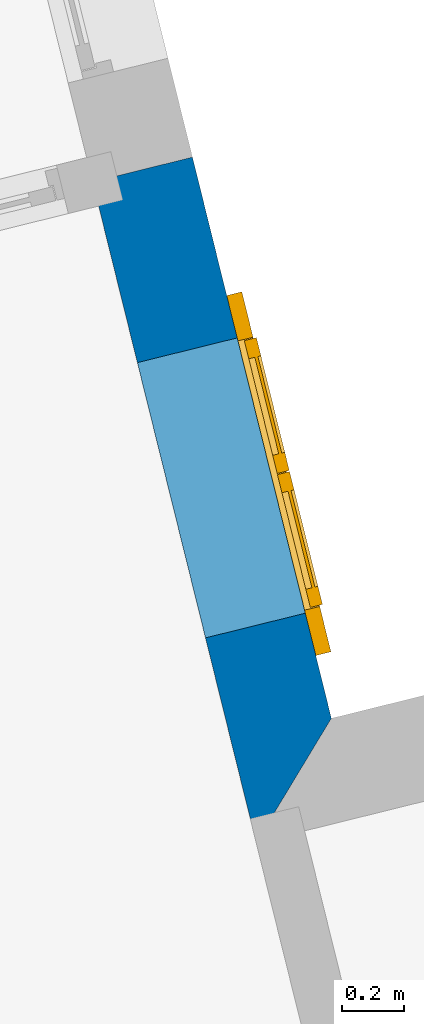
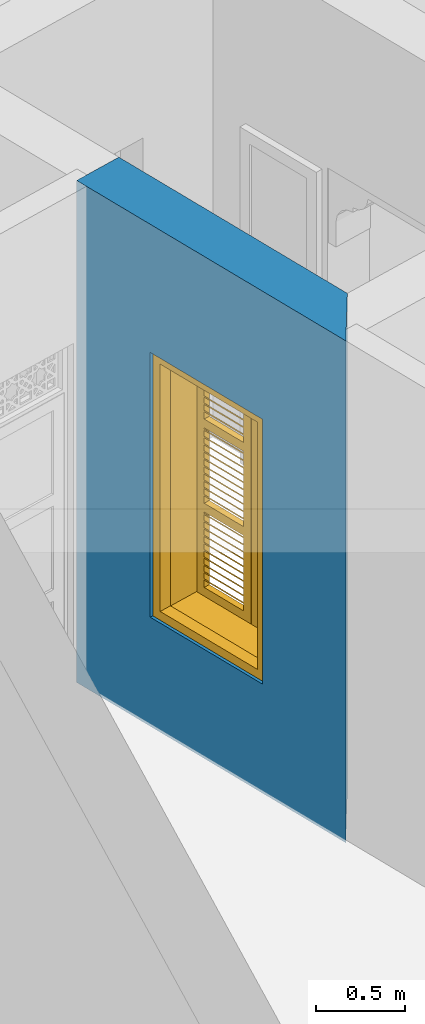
# One storey, part 3 of 10: 1 wall, 1 window, 1 opening.
"""IFC4 building model written with IfcOpenShell, lengths in metres."""

from ifc_helpers import new_model, si_unit, frame, origin, origin_with_axes, place, context, subcontext, project, spatial, polyline, outline, extrude, faceted_brep, source, transform, mapped, material, layer, layer_set, layer_usage, type_object, type_shapes, element, fill, save


model = new_model("IFC4")

# Units and contexts
model_context = context("Model", 3, world=origin_with_axes())
body_context = subcontext(model_context, "Body", "Model", "MODEL_VIEW")
ifc_project = project(units=[si_unit("PLANEANGLEUNIT", "RADIAN"), si_unit("MASSUNIT", "GRAM", prefix="KILO"), si_unit("FORCEUNIT", "NEWTON", prefix="KILO"), si_unit("LENGTHUNIT", "METRE"), si_unit("AREAUNIT", "SQUARE_METRE"), si_unit("VOLUMEUNIT", "CUBIC_METRE")], contexts=[model_context, model_context])

# Site, building, storey
site_placement = place(None, origin_with_axes())
site = spatial("IfcSite", under=ifc_project, at=site_placement, Name="Site plot-5", CompositionType="ELEMENT")
building_placement = place(None, origin_with_axes())
building = spatial("IfcBuilding", under=site, at=building_placement, Name="Building plot-5", CompositionType="ELEMENT")
storey_placement = place(None, origin_with_axes())
storey = spatial("IfcBuildingStorey", under=building, at=storey_placement, Name="plot-5 0", CompositionType="ELEMENT", Elevation=0.0)

# Wall, opening, window
ifc_material = material(Name="Masonry")
ifc_layer = layer(ifc_material, 0.33, ventilated=False)
ifc_layer_set = layer_set([ifc_layer], Name="exterior_0.08_0.25")
ifc_layer_usage = layer_usage(ifc_layer_set, "AXIS2", "POSITIVE", -0.25)
wall_type = type_object("IfcWallType", Name="exterior_0.08_0.25", PredefinedType="SOLIDWALL", material=ifc_layer_set)
wall_placement = place(storey_placement, frame((18.993952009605, 23.9854149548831, 0.0), z_axis=(0.0, 0.0, 1.0), x_axis=(-0.240250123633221, 0.970711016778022, 0.0)))
wall = element("IfcWall", 1, at=wall_placement, inside=storey, type_object=wall_type, material=ifc_layer_usage, Name="exterior", context=body_context, shape_type="SweptSolid", body=[
    extrude(outline(polyline([(-0.0799999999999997, 0.0799999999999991), (0.249999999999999, -0.250000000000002), (2.10517591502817, -0.250000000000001), (2.10517591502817, 0.0800000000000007), (-0.0799999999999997, 0.0799999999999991)])), origin_with_axes(), (0.0, 0.0, 1.0), 3.45),
])
opening_placement = place(wall_placement, frame((0.597587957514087, 0.0, 0.75)))
opening = element("IfcOpeningElement", 2, at=opening_placement, cuts=wall, Name="My Opening", ObjectType="Opening", context=body_context, shape_type="SweptSolid", body=[
    extrude(outline(polyline([(0.0, -0.269999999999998), (0.909999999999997, -0.270000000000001), (0.909999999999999, 1.1), (2.1094237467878e-15, 1.1), (0.0, -0.269999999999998)])), origin_with_axes(), (0.0, 0.0, 1.0), 1.82),
])
window_type = type_object("IfcWindowType", Name="shuttered_big", PartitioningType="DOUBLE_PANEL_HORIZONTAL", PredefinedType="NOTDEFINED")
shared_shape = source(origin(), body_context, "Body", "Brep", [
    faceted_brep([(0.074, 0.0, 0.810667), (0.393, 0.0, 0.810667), (0.393, 0.0, 0.800667), (0.074, 0.0, 0.800667), (0.074, -0.04, 0.770667), (0.393, -0.04, 0.770667), (0.393, -0.04, 0.760667), (0.074, -0.04, 0.760667), (0.517, 0.0, 0.232), (0.836, 0.0, 0.232), (0.836, 0.0, 0.222), (0.517, 0.0, 0.222), (0.517, -0.04, 0.192), (0.836, -0.04, 0.192), (0.836, -0.04, 0.182), (0.517, -0.04, 0.182), (0.517, 0.0, 0.532), (0.836, 0.0, 0.532), (0.836, 0.0, 0.522), (0.517, 0.0, 0.522), (0.517, -0.04, 0.492), (0.836, -0.04, 0.492), (0.836, -0.04, 0.482), (0.517, -0.04, 0.482), (0.517, 0.0, 0.482), (0.836, 0.0, 0.482), (0.836, 0.0, 0.472), (0.517, 0.0, 0.472), (0.517, -0.04, 0.442), (0.836, -0.04, 0.442), (0.836, -0.04, 0.432), (0.517, -0.04, 0.432), (0.517, 0.0, 0.582), (0.836, 0.0, 0.582), (0.836, 0.0, 0.572), (0.517, 0.0, 0.572), (0.517, -0.04, 0.542), (0.836, -0.04, 0.542), (0.836, -0.04, 0.532), (0.517, -0.04, 0.532), (0.517, 0.0, 0.182), (0.836, 0.0, 0.182), (0.836, 0.0, 0.172), (0.517, 0.0, 0.172), (0.517, -0.04, 0.142), (0.836, -0.04, 0.142), (0.836, -0.04, 0.132), (0.517, -0.04, 0.132), (0.517, 0.0, 0.382), (0.836, 0.0, 0.382), (0.836, 0.0, 0.372), (0.517, 0.0, 0.372), (0.517, -0.04, 0.342), (0.836, -0.04, 0.342), (0.836, -0.04, 0.332), (0.517, -0.04, 0.332), (0.517, 0.0, 0.432), (0.836, 0.0, 0.432), (0.836, 0.0, 0.422), (0.517, 0.0, 0.422), (0.517, -0.04, 0.392), (0.836, -0.04, 0.392), (0.836, -0.04, 0.382), (0.517, -0.04, 0.382), (0.517, 0.0, 0.132), (0.836, 0.0, 0.132), (0.836, 0.0, 0.122), (0.517, 0.0, 0.122), (0.517, -0.04, 0.092), (0.836, -0.04, 0.092), (0.836, -0.04, 0.082), (0.517, -0.04, 0.082), (0.517, 0.0, 0.282), (0.836, 0.0, 0.282), (0.836, 0.0, 0.272), (0.517, 0.0, 0.272), (0.517, -0.04, 0.242), (0.836, -0.04, 0.242), (0.836, -0.04, 0.232), (0.517, -0.04, 0.232), (0.517, 0.0, 0.332), (0.836, 0.0, 0.332), (0.836, 0.0, 0.322), (0.517, 0.0, 0.322), (0.517, -0.04, 0.292), (0.836, -0.04, 0.292), (0.836, -0.04, 0.282), (0.517, -0.04, 0.282), (0.517, 0.0, 0.810667), (0.836, 0.0, 0.810667), (0.836, 0.0, 0.800667), (0.517, 0.0, 0.800667), (0.517, -0.04, 0.770667), (0.836, -0.04, 0.770667), (0.836, -0.04, 0.760667), (0.517, -0.04, 0.760667), (0.517, 0.0, 1.110667), (0.836, 0.0, 1.110667), (0.836, 0.0, 1.100667), (0.517, 0.0, 1.100667), (0.517, -0.04, 1.070667), (0.836, -0.04, 1.070667), (0.836, -0.04, 1.060667), (0.517, -0.04, 1.060667), (0.517, 0.0, 1.060667), (0.836, 0.0, 1.060667), (0.836, 0.0, 1.050667), (0.517, 0.0, 1.050667), (0.517, -0.04, 1.020667), (0.836, -0.04, 1.020667), (0.836, -0.04, 1.010667), (0.517, -0.04, 1.010667), (0.517, 0.0, 1.160667), (0.836, 0.0, 1.160667), (0.836, 0.0, 1.150667), (0.517, 0.0, 1.150667), (0.517, -0.04, 1.120667), (0.836, -0.04, 1.120667), (0.836, -0.04, 1.110667), (0.517, -0.04, 1.110667), (0.517, 0.0, 0.760667), (0.836, 0.0, 0.760667), (0.836, 0.0, 0.750667), (0.517, 0.0, 0.750667), (0.517, -0.04, 0.720667), (0.836, -0.04, 0.720667), (0.836, -0.04, 0.710667), (0.517, -0.04, 0.710667), (0.517, 0.0, 0.960667), (0.836, 0.0, 0.960667), (0.836, 0.0, 0.950667), (0.517, 0.0, 0.950667), (0.517, -0.04, 0.920667), (0.836, -0.04, 0.920667), (0.836, -0.04, 0.910667), (0.517, -0.04, 0.910667), (0.517, 0.0, 1.010667), (0.836, 0.0, 1.010667), (0.836, 0.0, 1.0), (0.517, 0.0, 1.0), (0.517, -0.04, 0.970667), (0.836, -0.04, 0.970667), (0.836, -0.04, 0.960667), (0.517, -0.04, 0.960667), (0.517, 0.0, 0.710667), (0.836, 0.0, 0.710667), (0.836, 0.0, 0.700667), (0.517, 0.0, 0.700667), (0.517, -0.04, 0.670667), (0.836, -0.04, 0.670667), (0.836, -0.04, 0.660667), (0.517, -0.04, 0.660667), (0.517, 0.0, 0.860667), (0.836, 0.0, 0.860667), (0.836, 0.0, 0.850667), (0.517, 0.0, 0.850667), (0.517, -0.04, 0.820667), (0.836, -0.04, 0.820667), (0.836, -0.04, 0.810667), (0.517, -0.04, 0.810667), (0.517, 0.0, 0.910667), (0.836, 0.0, 0.910667), (0.836, 0.0, 0.900667), (0.517, 0.0, 0.900667), (0.517, -0.04, 0.870667), (0.836, -0.04, 0.870667), (0.836, -0.04, 0.860667), (0.517, -0.04, 0.860667), (0.517, 0.0, 1.389333), (0.836, 0.0, 1.389333), (0.836, 0.0, 1.379333), (0.517, 0.0, 1.379333), (0.517, -0.04, 1.349333), (0.836, -0.04, 1.349333), (0.836, -0.04, 1.339333), (0.517, -0.04, 1.339333), (0.517, 0.0, 1.689333), (0.836, 0.0, 1.689333), (0.836, 0.0, 1.679333), (0.517, 0.0, 1.679333), (0.517, -0.04, 1.649333), (0.836, -0.04, 1.649333), (0.836, -0.04, 1.639333), (0.517, -0.04, 1.639333), (0.517, 0.0, 1.639333), (0.836, 0.0, 1.639333), (0.836, 0.0, 1.629333), (0.517, 0.0, 1.629333), (0.517, -0.04, 1.599333), (0.836, -0.04, 1.599333), (0.836, -0.04, 1.589333), (0.517, -0.04, 1.589333), (0.517, 0.0, 1.739333), (0.836, 0.0, 1.739333), (0.836, 0.0, 1.729333), (0.517, 0.0, 1.729333), (0.517, -0.04, 1.699333), (0.836, -0.04, 1.699333), (0.836, -0.04, 1.689333), (0.517, -0.04, 1.689333), (0.517, 0.0, 1.339333), (0.836, 0.0, 1.339333), (0.836, 0.0, 1.329333), (0.517, 0.0, 1.329333), (0.517, -0.04, 1.299333), (0.836, -0.04, 1.299333), (0.836, -0.04, 1.289333), (0.517, -0.04, 1.289333), (0.517, 0.0, 1.539333), (0.836, 0.0, 1.539333), (0.836, 0.0, 1.529333), (0.517, 0.0, 1.529333), (0.517, -0.04, 1.499333), (0.836, -0.04, 1.499333), (0.836, -0.04, 1.489333), (0.517, -0.04, 1.489333), (0.517, 0.0, 1.589333), (0.836, 0.0, 1.589333), (0.836, 0.0, 1.579333), (0.517, 0.0, 1.579333), (0.517, -0.04, 1.549333), (0.836, -0.04, 1.549333), (0.836, -0.04, 1.539333), (0.517, -0.04, 1.539333), (0.517, 0.0, 1.289333), (0.836, 0.0, 1.289333), (0.836, 0.0, 1.279333), (0.517, 0.0, 1.279333), (0.517, -0.04, 1.249333), (0.836, -0.04, 1.249333), (0.836, -0.04, 1.239333), (0.517, -0.04, 1.239333), (0.517, 0.0, 1.439333), (0.836, 0.0, 1.439333), (0.836, 0.0, 1.429333), (0.517, 0.0, 1.429333), (0.517, -0.04, 1.399333), (0.836, -0.04, 1.399333), (0.836, -0.04, 1.389333), (0.517, -0.04, 1.389333), (0.517, 0.0, 1.489333), (0.836, 0.0, 1.489333), (0.836, 0.0, 1.479333), (0.517, 0.0, 1.479333), (0.517, -0.04, 1.449333), (0.836, -0.04, 1.449333), (0.836, -0.04, 1.439333), (0.517, -0.04, 1.439333), (0.074, 0.0, 0.232), (0.393, 0.0, 0.232), (0.393, 0.0, 0.222), (0.074, 0.0, 0.222), (0.074, -0.04, 0.192), (0.393, -0.04, 0.192), (0.393, -0.04, 0.182), (0.074, -0.04, 0.182), (0.074, 0.0, 0.532), (0.393, 0.0, 0.532), (0.393, 0.0, 0.522), (0.074, 0.0, 0.522), (0.074, -0.04, 0.492), (0.393, -0.04, 0.492), (0.393, -0.04, 0.482), (0.074, -0.04, 0.482), (0.074, 0.0, 0.482), (0.393, 0.0, 0.482), (0.393, 0.0, 0.472), (0.074, 0.0, 0.472), (0.074, -0.04, 0.442), (0.393, -0.04, 0.442), (0.393, -0.04, 0.432), (0.074, -0.04, 0.432), (0.074, 0.0, 0.582), (0.393, 0.0, 0.582), (0.393, 0.0, 0.572), (0.074, 0.0, 0.572), (0.074, -0.04, 0.542), (0.393, -0.04, 0.542), (0.393, -0.04, 0.532), (0.074, -0.04, 0.532), (0.074, 0.0, 0.182), (0.393, 0.0, 0.182), (0.393, 0.0, 0.172), (0.074, 0.0, 0.172), (0.074, -0.04, 0.142), (0.393, -0.04, 0.142), (0.393, -0.04, 0.132), (0.074, -0.04, 0.132), (0.074, 0.0, 0.382), (0.393, 0.0, 0.382), (0.393, 0.0, 0.372), (0.074, 0.0, 0.372), (0.074, -0.04, 0.342), (0.393, -0.04, 0.342), (0.393, -0.04, 0.332), (0.074, -0.04, 0.332), (0.074, 0.0, 0.432), (0.393, 0.0, 0.432), (0.393, 0.0, 0.422), (0.074, 0.0, 0.422), (0.074, -0.04, 0.392), (0.393, -0.04, 0.392), (0.393, -0.04, 0.382), (0.074, -0.04, 0.382), (0.074, 0.0, 0.132), (0.393, 0.0, 0.132), (0.393, 0.0, 0.122), (0.074, 0.0, 0.122), (0.074, -0.04, 0.092), (0.393, -0.04, 0.092), (0.393, -0.04, 0.082), (0.074, -0.04, 0.082), (0.074, 0.0, 0.282), (0.393, 0.0, 0.282), (0.393, 0.0, 0.272), (0.074, 0.0, 0.272), (0.074, -0.04, 0.242), (0.393, -0.04, 0.242), (0.393, -0.04, 0.232), (0.074, -0.04, 0.232), (0.074, 0.0, 0.332), (0.393, 0.0, 0.332), (0.393, 0.0, 0.322), (0.074, 0.0, 0.322), (0.074, -0.04, 0.292), (0.393, -0.04, 0.292), (0.393, -0.04, 0.282), (0.074, -0.04, 0.282), (0.074, 0.0, 1.110667), (0.393, 0.0, 1.110667), (0.393, 0.0, 1.100667), (0.074, 0.0, 1.100667), (0.074, -0.04, 1.070667), (0.393, -0.04, 1.070667), (0.393, -0.04, 1.060667), (0.074, -0.04, 1.060667), (0.074, 0.0, 1.060667), (0.393, 0.0, 1.060667), (0.393, 0.0, 1.050667), (0.074, 0.0, 1.050667), (0.074, -0.04, 1.020667), (0.393, -0.04, 1.020667), (0.393, -0.04, 1.010667), (0.074, -0.04, 1.010667), (0.074, 0.0, 1.160667), (0.393, 0.0, 1.160667), (0.393, 0.0, 1.150667), (0.074, 0.0, 1.150667), (0.074, -0.04, 1.120667), (0.393, -0.04, 1.120667), (0.393, -0.04, 1.110667), (0.074, -0.04, 1.110667), (0.074, 0.0, 0.760667), (0.393, 0.0, 0.760667), (0.393, 0.0, 0.750667), (0.074, 0.0, 0.750667), (0.074, -0.04, 0.720667), (0.393, -0.04, 0.720667), (0.393, -0.04, 0.710667), (0.074, -0.04, 0.710667), (0.074, 0.0, 0.960667), (0.393, 0.0, 0.960667), (0.393, 0.0, 0.950667), (0.074, 0.0, 0.950667), (0.074, -0.04, 0.920667), (0.393, -0.04, 0.920667), (0.393, -0.04, 0.910667), (0.074, -0.04, 0.910667), (0.074, 0.0, 1.010667), (0.393, 0.0, 1.010667), (0.393, 0.0, 1.0), (0.074, 0.0, 1.0), (0.074, -0.04, 0.970667), (0.393, -0.04, 0.970667), (0.393, -0.04, 0.960667), (0.074, -0.04, 0.960667), (0.074, 0.0, 0.710667), (0.393, 0.0, 0.710667), (0.393, 0.0, 0.700667), (0.074, 0.0, 0.700667), (0.074, -0.04, 0.670667), (0.393, -0.04, 0.670667), (0.393, -0.04, 0.660667), (0.074, -0.04, 0.660667), (0.074, 0.0, 0.860667), (0.393, 0.0, 0.860667), (0.393, 0.0, 0.850667), (0.074, 0.0, 0.850667), (0.074, -0.04, 0.820667), (0.393, -0.04, 0.820667), (0.393, -0.04, 0.810667), (0.074, -0.04, 0.810667), (0.074, 0.0, 0.910667), (0.393, 0.0, 0.910667), (0.393, 0.0, 0.900667), (0.074, 0.0, 0.900667), (0.074, -0.04, 0.870667), (0.393, -0.04, 0.870667), (0.393, -0.04, 0.860667), (0.074, -0.04, 0.860667), (0.074, 0.0, 1.389333), (0.393, 0.0, 1.389333), (0.393, 0.0, 1.379333), (0.074, 0.0, 1.379333), (0.074, -0.04, 1.349333), (0.393, -0.04, 1.349333), (0.393, -0.04, 1.339333), (0.074, -0.04, 1.339333), (0.074, 0.0, 1.689333), (0.393, 0.0, 1.689333), (0.393, 0.0, 1.679333), (0.074, 0.0, 1.679333), (0.074, -0.04, 1.649333), (0.393, -0.04, 1.649333), (0.393, -0.04, 1.639333), (0.074, -0.04, 1.639333), (0.074, 0.0, 1.639333), (0.393, 0.0, 1.639333), (0.393, 0.0, 1.629333), (0.074, 0.0, 1.629333), (0.074, -0.04, 1.599333), (0.393, -0.04, 1.599333), (0.393, -0.04, 1.589333), (0.074, -0.04, 1.589333), (0.074, 0.0, 1.739333), (0.393, 0.0, 1.739333), (0.393, 0.0, 1.729333), (0.074, 0.0, 1.729333), (0.074, -0.04, 1.699333), (0.393, -0.04, 1.699333), (0.393, -0.04, 1.689333), (0.074, -0.04, 1.689333), (0.074, 0.0, 1.339333), (0.393, 0.0, 1.339333), (0.393, 0.0, 1.329333), (0.074, 0.0, 1.329333), (0.074, -0.04, 1.299333), (0.393, -0.04, 1.299333), (0.393, -0.04, 1.289333), (0.074, -0.04, 1.289333), (0.074, 0.0, 1.539333), (0.393, 0.0, 1.539333), (0.393, 0.0, 1.529333), (0.074, 0.0, 1.529333), (0.074, -0.04, 1.499333), (0.393, -0.04, 1.499333), (0.393, -0.04, 1.489333), (0.074, -0.04, 1.489333), (0.074, 0.0, 1.589333), (0.393, 0.0, 1.589333), (0.393, 0.0, 1.579333), (0.074, 0.0, 1.579333), (0.074, -0.04, 1.549333), (0.393, -0.04, 1.549333), (0.393, -0.04, 1.539333), (0.074, -0.04, 1.539333), (0.074, 0.0, 1.289333), (0.393, 0.0, 1.289333), (0.393, 0.0, 1.279333), (0.074, 0.0, 1.279333), (0.074, -0.04, 1.249333), (0.393, -0.04, 1.249333), (0.393, -0.04, 1.239333), (0.074, -0.04, 1.239333), (0.074, 0.0, 1.439333), (0.393, 0.0, 1.439333), (0.393, 0.0, 1.429333), (0.074, 0.0, 1.429333), (0.074, -0.04, 1.399333), (0.393, -0.04, 1.399333), (0.393, -0.04, 1.389333), (0.074, -0.04, 1.389333), (0.074, 0.0, 1.489333), (0.393, 0.0, 1.489333), (0.393, 0.0, 1.479333), (0.074, 0.0, 1.479333), (0.074, -0.04, 1.449333), (0.393, -0.04, 1.449333), (0.393, -0.04, 1.439333), (0.074, -0.04, 1.439333), (0.517, -0.04, 0.072), (0.457, -0.04, 0.012), (0.896, -0.04, 0.012), (0.836, -0.04, 0.072), (0.457, -0.04, 0.590667), (0.517, -0.04, 0.590667), (0.457, 0.0, 0.012), (0.896, 0.0, 0.012), (0.836, -0.04, 0.590667), (0.896, -0.04, 0.590667), (0.836, 0.0, 0.072), (0.517, 0.0, 0.072), (0.457, 0.0, 0.590667), (0.517, 0.0, 0.590667), (0.517, -0.04, 0.650667), (0.457, -0.04, 0.650667), (0.896, 0.0, 0.590667), (0.836, 0.0, 0.590667), (0.836, -0.04, 0.650667), (0.896, -0.04, 0.650667), (0.457, 0.0, 0.650667), (0.457, -0.04, 1.169333), (0.517, -0.04, 1.169333), (0.896, 0.0, 0.650667), (0.836, -0.04, 1.169333), (0.896, -0.04, 1.169333), (0.457, 0.0, 1.169333), (0.517, 0.0, 0.650667), (0.836, 0.0, 0.650667), (0.517, 0.0, 1.169333), (0.517, -0.04, 1.229333), (0.457, -0.04, 1.229333), (0.896, 0.0, 1.169333), (0.836, 0.0, 1.169333), (0.836, -0.04, 1.229333), (0.896, -0.04, 1.229333), (0.457, 0.0, 1.229333), (0.517, -0.04, 1.748), (0.457, -0.04, 1.808), (0.896, 0.0, 1.229333), (0.896, -0.04, 1.808), (0.836, -0.04, 1.748), (0.457, 0.0, 1.808), (0.517, 0.0, 1.229333), (0.836, 0.0, 1.229333), (0.517, 0.0, 1.748), (0.896, 0.0, 1.808), (0.836, 0.0, 1.748), (0.074, -0.04, 0.072), (0.014, -0.04, 0.012), (0.453, -0.04, 0.012), (0.393, -0.04, 0.072), (0.014, -0.04, 0.590667), (0.074, -0.04, 0.590667), (0.014, 0.0, 0.012), (0.453, 0.0, 0.012), (0.393, -0.04, 0.590667), (0.453, -0.04, 0.590667), (0.393, 0.0, 0.072), (0.074, 0.0, 0.072), (0.014, 0.0, 0.590667), (0.074, 0.0, 0.590667), (0.074, -0.04, 0.650667), (0.014, -0.04, 0.650667), (0.453, 0.0, 0.590667), (0.393, 0.0, 0.590667), (0.393, -0.04, 0.650667), (0.453, -0.04, 0.650667), (0.014, 0.0, 0.650667), (0.014, -0.04, 1.169333), (0.074, -0.04, 1.169333), (0.453, 0.0, 0.650667), (0.393, -0.04, 1.169333), (0.453, -0.04, 1.169333), (0.014, 0.0, 1.169333), (0.074, 0.0, 0.650667), (0.393, 0.0, 0.650667), (0.074, 0.0, 1.169333), (0.074, -0.04, 1.229333), (0.014, -0.04, 1.229333), (0.453, 0.0, 1.169333), (0.393, 0.0, 1.169333), (0.393, -0.04, 1.229333), (0.453, -0.04, 1.229333), (0.014, 0.0, 1.229333), (0.074, -0.04, 1.748), (0.014, -0.04, 1.808), (0.453, 0.0, 1.229333), (0.453, -0.04, 1.808), (0.393, -0.04, 1.748), (0.014, 0.0, 1.808), (0.074, 0.0, 1.229333), (0.393, 0.0, 1.229333), (0.074, 0.0, 1.748), (0.453, 0.0, 1.808), (0.393, 0.0, 1.748), (0.0, 0.33, 1.82), (0.91, 0.33, 1.82), (0.85, 0.33, 1.76), (0.06, 0.33, 1.76), (1.05, -0.03, 1.96), (1.05, 0.25, 1.96), (-0.14, 0.25, 1.96), (-0.14, -0.03, 1.96), (0.0, 0.25, 1.82), (0.91, 0.25, 1.82), (0.9, 0.25, 1.81), (0.01, 0.25, 1.81), (0.85, 0.33, 0.06), (0.91, 0.33, 0.0), (0.85, 0.25, 1.76), (0.06, 0.25, 1.76), (0.0, 0.33, 0.0), (0.06, 0.33, 0.06), (0.0, 0.25, 0.0), (0.910046, 0.25, 1.82), (0.91, 0.25, 0.0), (0.85, 0.25, 0.06), (0.06, 0.25, 0.06), (0.9, 0.25, 0.01), (0.9, -0.03, 0.01), (0.9, -0.03, 1.81), (0.01, -0.03, 0.01), (-0.14, -0.03, -0.14), (1.05, -0.03, -0.14), (0.01, -0.03, 1.81), (0.01, 0.25, 0.01), (1.05, 0.25, -0.14), (-0.14, 0.25, -0.14)], [[[0, 1, 2, 3]], [[1, 0, 4, 5]], [[2, 1, 5, 6]], [[6, 7, 3, 2]], [[7, 4, 0, 3]], [[5, 4, 7, 6]], [[8, 9, 10, 11]], [[12, 13, 9, 8]], [[13, 14, 10, 9]], [[14, 15, 11, 10]], [[15, 12, 8, 11]], [[13, 12, 15, 14]], [[16, 17, 18, 19]], [[20, 21, 17, 16]], [[21, 22, 18, 17]], [[22, 23, 19, 18]], [[23, 20, 16, 19]], [[21, 20, 23, 22]], [[24, 25, 26, 27]], [[28, 29, 25, 24]], [[29, 30, 26, 25]], [[30, 31, 27, 26]], [[31, 28, 24, 27]], [[29, 28, 31, 30]], [[32, 33, 34, 35]], [[36, 37, 33, 32]], [[37, 38, 34, 33]], [[38, 39, 35, 34]], [[39, 36, 32, 35]], [[37, 36, 39, 38]], [[40, 41, 42, 43]], [[44, 45, 41, 40]], [[45, 46, 42, 41]], [[46, 47, 43, 42]], [[47, 44, 40, 43]], [[45, 44, 47, 46]], [[48, 49, 50, 51]], [[52, 53, 49, 48]], [[53, 54, 50, 49]], [[54, 55, 51, 50]], [[55, 52, 48, 51]], [[53, 52, 55, 54]], [[56, 57, 58, 59]], [[60, 61, 57, 56]], [[61, 62, 58, 57]], [[62, 63, 59, 58]], [[63, 60, 56, 59]], [[61, 60, 63, 62]], [[64, 65, 66, 67]], [[68, 69, 65, 64]], [[69, 70, 66, 65]], [[70, 71, 67, 66]], [[71, 68, 64, 67]], [[69, 68, 71, 70]], [[72, 73, 74, 75]], [[76, 77, 73, 72]], [[77, 78, 74, 73]], [[78, 79, 75, 74]], [[79, 76, 72, 75]], [[77, 76, 79, 78]], [[80, 81, 82, 83]], [[84, 85, 81, 80]], [[85, 86, 82, 81]], [[86, 87, 83, 82]], [[87, 84, 80, 83]], [[85, 84, 87, 86]], [[88, 89, 90, 91]], [[92, 93, 89, 88]], [[93, 94, 90, 89]], [[94, 95, 91, 90]], [[95, 92, 88, 91]], [[93, 92, 95, 94]], [[96, 97, 98, 99]], [[100, 101, 97, 96]], [[101, 102, 98, 97]], [[102, 103, 99, 98]], [[103, 100, 96, 99]], [[101, 100, 103, 102]], [[104, 105, 106, 107]], [[108, 109, 105, 104]], [[109, 110, 106, 105]], [[110, 111, 107, 106]], [[111, 108, 104, 107]], [[109, 108, 111, 110]], [[112, 113, 114, 115]], [[116, 117, 113, 112]], [[117, 118, 114, 113]], [[118, 119, 115, 114]], [[119, 116, 112, 115]], [[117, 116, 119, 118]], [[120, 121, 122, 123]], [[124, 125, 121, 120]], [[125, 126, 122, 121]], [[126, 127, 123, 122]], [[127, 124, 120, 123]], [[125, 124, 127, 126]], [[128, 129, 130, 131]], [[132, 133, 129, 128]], [[133, 134, 130, 129]], [[134, 135, 131, 130]], [[135, 132, 128, 131]], [[133, 132, 135, 134]], [[136, 137, 138, 139]], [[140, 141, 137, 136]], [[141, 142, 138, 137]], [[142, 143, 139, 138]], [[143, 140, 136, 139]], [[141, 140, 143, 142]], [[144, 145, 146, 147]], [[148, 149, 145, 144]], [[149, 150, 146, 145]], [[150, 151, 147, 146]], [[151, 148, 144, 147]], [[149, 148, 151, 150]], [[152, 153, 154, 155]], [[156, 157, 153, 152]], [[157, 158, 154, 153]], [[158, 159, 155, 154]], [[159, 156, 152, 155]], [[157, 156, 159, 158]], [[160, 161, 162, 163]], [[164, 165, 161, 160]], [[165, 166, 162, 161]], [[166, 167, 163, 162]], [[167, 164, 160, 163]], [[165, 164, 167, 166]], [[168, 169, 170, 171]], [[172, 173, 169, 168]], [[173, 174, 170, 169]], [[174, 175, 171, 170]], [[175, 172, 168, 171]], [[173, 172, 175, 174]], [[176, 177, 178, 179]], [[180, 181, 177, 176]], [[181, 182, 178, 177]], [[182, 183, 179, 178]], [[183, 180, 176, 179]], [[181, 180, 183, 182]], [[184, 185, 186, 187]], [[188, 189, 185, 184]], [[189, 190, 186, 185]], [[190, 191, 187, 186]], [[191, 188, 184, 187]], [[189, 188, 191, 190]], [[192, 193, 194, 195]], [[196, 197, 193, 192]], [[197, 198, 194, 193]], [[198, 199, 195, 194]], [[199, 196, 192, 195]], [[197, 196, 199, 198]], [[200, 201, 202, 203]], [[204, 205, 201, 200]], [[205, 206, 202, 201]], [[206, 207, 203, 202]], [[207, 204, 200, 203]], [[205, 204, 207, 206]], [[208, 209, 210, 211]], [[212, 213, 209, 208]], [[213, 214, 210, 209]], [[214, 215, 211, 210]], [[215, 212, 208, 211]], [[213, 212, 215, 214]], [[216, 217, 218, 219]], [[220, 221, 217, 216]], [[221, 222, 218, 217]], [[222, 223, 219, 218]], [[223, 220, 216, 219]], [[221, 220, 223, 222]], [[224, 225, 226, 227]], [[228, 229, 225, 224]], [[229, 230, 226, 225]], [[230, 231, 227, 226]], [[231, 228, 224, 227]], [[229, 228, 231, 230]], [[232, 233, 234, 235]], [[236, 237, 233, 232]], [[237, 238, 234, 233]], [[238, 239, 235, 234]], [[239, 236, 232, 235]], [[237, 236, 239, 238]], [[240, 241, 242, 243]], [[244, 245, 241, 240]], [[245, 246, 242, 241]], [[246, 247, 243, 242]], [[247, 244, 240, 243]], [[245, 244, 247, 246]], [[248, 249, 250, 251]], [[252, 253, 249, 248]], [[253, 254, 250, 249]], [[254, 255, 251, 250]], [[255, 252, 248, 251]], [[253, 252, 255, 254]], [[256, 257, 258, 259]], [[260, 261, 257, 256]], [[261, 262, 258, 257]], [[262, 263, 259, 258]], [[263, 260, 256, 259]], [[261, 260, 263, 262]], [[264, 265, 266, 267]], [[268, 269, 265, 264]], [[269, 270, 266, 265]], [[270, 271, 267, 266]], [[271, 268, 264, 267]], [[269, 268, 271, 270]], [[272, 273, 274, 275]], [[276, 277, 273, 272]], [[277, 278, 274, 273]], [[278, 279, 275, 274]], [[279, 276, 272, 275]], [[277, 276, 279, 278]], [[280, 281, 282, 283]], [[284, 285, 281, 280]], [[285, 286, 282, 281]], [[286, 287, 283, 282]], [[287, 284, 280, 283]], [[285, 284, 287, 286]], [[288, 289, 290, 291]], [[292, 293, 289, 288]], [[293, 294, 290, 289]], [[294, 295, 291, 290]], [[295, 292, 288, 291]], [[293, 292, 295, 294]], [[296, 297, 298, 299]], [[300, 301, 297, 296]], [[301, 302, 298, 297]], [[302, 303, 299, 298]], [[303, 300, 296, 299]], [[301, 300, 303, 302]], [[304, 305, 306, 307]], [[308, 309, 305, 304]], [[309, 310, 306, 305]], [[310, 311, 307, 306]], [[311, 308, 304, 307]], [[309, 308, 311, 310]], [[312, 313, 314, 315]], [[316, 317, 313, 312]], [[317, 318, 314, 313]], [[318, 319, 315, 314]], [[319, 316, 312, 315]], [[317, 316, 319, 318]], [[320, 321, 322, 323]], [[324, 325, 321, 320]], [[325, 326, 322, 321]], [[326, 327, 323, 322]], [[327, 324, 320, 323]], [[325, 324, 327, 326]], [[328, 329, 330, 331]], [[332, 333, 329, 328]], [[333, 334, 330, 329]], [[334, 335, 331, 330]], [[335, 332, 328, 331]], [[333, 332, 335, 334]], [[336, 337, 338, 339]], [[340, 341, 337, 336]], [[341, 342, 338, 337]], [[342, 343, 339, 338]], [[343, 340, 336, 339]], [[341, 340, 343, 342]], [[344, 345, 346, 347]], [[348, 349, 345, 344]], [[349, 350, 346, 345]], [[350, 351, 347, 346]], [[351, 348, 344, 347]], [[349, 348, 351, 350]], [[352, 353, 354, 355]], [[356, 357, 353, 352]], [[357, 358, 354, 353]], [[358, 359, 355, 354]], [[359, 356, 352, 355]], [[357, 356, 359, 358]], [[360, 361, 362, 363]], [[364, 365, 361, 360]], [[365, 366, 362, 361]], [[366, 367, 363, 362]], [[367, 364, 360, 363]], [[366, 365, 364, 367]], [[368, 369, 370, 371]], [[372, 373, 369, 368]], [[373, 374, 370, 369]], [[374, 375, 371, 370]], [[375, 372, 368, 371]], [[373, 372, 375, 374]], [[376, 377, 378, 379]], [[380, 381, 377, 376]], [[381, 382, 378, 377]], [[382, 383, 379, 378]], [[383, 380, 376, 379]], [[381, 380, 383, 382]], [[384, 385, 386, 387]], [[388, 389, 385, 384]], [[389, 390, 386, 385]], [[390, 391, 387, 386]], [[391, 388, 384, 387]], [[389, 388, 391, 390]], [[392, 393, 394, 395]], [[396, 397, 393, 392]], [[397, 398, 394, 393]], [[398, 399, 395, 394]], [[399, 396, 392, 395]], [[397, 396, 399, 398]], [[400, 401, 402, 403]], [[404, 405, 401, 400]], [[405, 406, 402, 401]], [[406, 407, 403, 402]], [[407, 404, 400, 403]], [[405, 404, 407, 406]], [[408, 409, 410, 411]], [[412, 413, 409, 408]], [[413, 414, 410, 409]], [[414, 415, 411, 410]], [[415, 412, 408, 411]], [[414, 413, 412, 415]], [[416, 417, 418, 419]], [[420, 421, 417, 416]], [[421, 422, 418, 417]], [[422, 423, 419, 418]], [[423, 420, 416, 419]], [[421, 420, 423, 422]], [[424, 425, 426, 427]], [[428, 429, 425, 424]], [[429, 430, 426, 425]], [[430, 431, 427, 426]], [[431, 428, 424, 427]], [[429, 428, 431, 430]], [[432, 433, 434, 435]], [[436, 437, 433, 432]], [[437, 438, 434, 433]], [[438, 439, 435, 434]], [[439, 436, 432, 435]], [[437, 436, 439, 438]], [[440, 441, 442, 443]], [[444, 445, 441, 440]], [[445, 446, 442, 441]], [[446, 447, 443, 442]], [[447, 444, 440, 443]], [[445, 444, 447, 446]], [[448, 449, 450, 451]], [[452, 453, 449, 448]], [[453, 454, 450, 449]], [[454, 455, 451, 450]], [[455, 452, 448, 451]], [[453, 452, 455, 454]], [[456, 457, 458, 459]], [[460, 461, 457, 456]], [[461, 462, 458, 457]], [[462, 463, 459, 458]], [[463, 460, 456, 459]], [[461, 460, 463, 462]], [[464, 465, 466, 467]], [[468, 469, 465, 464]], [[469, 470, 466, 465]], [[470, 471, 467, 466]], [[471, 468, 464, 467]], [[469, 468, 471, 470]], [[472, 473, 474, 475]], [[476, 477, 473, 472]], [[477, 478, 474, 473]], [[478, 479, 475, 474]], [[479, 476, 472, 475]], [[477, 476, 479, 478]], [[480, 481, 482, 483]], [[484, 481, 480, 485]], [[486, 487, 482, 481]], [[488, 483, 482, 489]], [[480, 483, 490, 491]], [[486, 481, 484, 492]], [[485, 480, 491, 493]], [[485, 494, 495, 484]], [[486, 491, 490, 487]], [[496, 489, 482, 487]], [[483, 488, 497, 490]], [[498, 488, 489, 499]], [[492, 484, 495, 500]], [[486, 492, 493, 491]], [[488, 485, 493, 497]], [[494, 485, 488, 498]], [[501, 495, 494, 502]], [[490, 497, 496, 487]], [[503, 499, 489, 496]], [[504, 498, 499, 505]], [[500, 495, 501, 506]], [[507, 493, 492, 500]], [[493, 507, 508, 497]], [[494, 498, 508, 507]], [[502, 494, 507, 509]], [[502, 510, 511, 501]], [[497, 508, 503, 496]], [[512, 505, 499, 503]], [[498, 504, 513, 508]], [[514, 504, 505, 515]], [[506, 501, 511, 516]], [[500, 506, 509, 507]], [[504, 502, 509, 513]], [[510, 502, 504, 514]], [[510, 517, 518, 511]], [[508, 513, 512, 503]], [[519, 515, 505, 512]], [[515, 520, 521, 514]], [[516, 511, 518, 522]], [[523, 509, 506, 516]], [[509, 523, 524, 513]], [[510, 514, 524, 523]], [[517, 510, 523, 525]], [[518, 517, 521, 520]], [[513, 524, 519, 512]], [[526, 520, 515, 519]], [[514, 521, 527, 524]], [[522, 518, 520, 526]], [[525, 523, 516, 522]], [[521, 517, 525, 527]], [[526, 519, 524, 527]], [[525, 522, 526, 527]], [[528, 529, 530, 531]], [[532, 529, 528, 533]], [[534, 535, 530, 529]], [[536, 531, 530, 537]], [[528, 531, 538, 539]], [[534, 529, 532, 540]], [[533, 528, 539, 541]], [[533, 542, 543, 532]], [[534, 539, 538, 535]], [[544, 537, 530, 535]], [[531, 536, 545, 538]], [[546, 536, 537, 547]], [[540, 532, 543, 548]], [[534, 540, 541, 539]], [[536, 533, 541, 545]], [[542, 533, 536, 546]], [[549, 543, 542, 550]], [[538, 545, 544, 535]], [[551, 547, 537, 544]], [[552, 546, 547, 553]], [[548, 543, 549, 554]], [[555, 541, 540, 548]], [[541, 555, 556, 545]], [[542, 546, 556, 555]], [[550, 542, 555, 557]], [[550, 558, 559, 549]], [[545, 556, 551, 544]], [[560, 553, 547, 551]], [[546, 552, 561, 556]], [[562, 552, 553, 563]], [[554, 549, 559, 564]], [[548, 554, 557, 555]], [[552, 550, 557, 561]], [[558, 550, 552, 562]], [[558, 565, 566, 559]], [[556, 561, 560, 551]], [[567, 563, 553, 560]], [[563, 568, 569, 562]], [[564, 559, 566, 570]], [[571, 557, 554, 564]], [[557, 571, 572, 561]], [[558, 562, 572, 571]], [[565, 558, 571, 573]], [[566, 565, 569, 568]], [[561, 572, 567, 560]], [[574, 568, 563, 567]], [[562, 569, 575, 572]], [[570, 566, 568, 574]], [[573, 571, 564, 570]], [[569, 565, 573, 575]], [[574, 567, 572, 575]], [[573, 570, 574, 575]], [[576, 577, 578, 579]], [[580, 581, 582, 583]], [[576, 584, 585, 577]], [[582, 581, 586, 587]], [[588, 578, 577, 589]], [[579, 578, 590, 591]], [[592, 576, 579, 593]], [[576, 592, 594, 584]], [[595, 584, 591, 590]], [[596, 585, 595]], [[595, 590, 597]], [[595, 597, 596]], [[589, 577, 585, 596]], [[578, 588, 597, 590]], [[589, 592, 593, 588]], [[593, 579, 591, 598]], [[592, 589, 596, 594]], [[598, 591, 584, 594]], [[594, 596, 597, 598]], [[588, 593, 598, 597]], [[599, 600, 601, 586]], [[602, 603, 604, 600]], [[601, 605, 587, 586]], [[600, 599, 606, 602]], [[607, 604, 603, 608]], [[599, 607, 608, 606]], [[605, 602, 606, 587]], [[602, 605, 583, 603]], [[600, 604, 580, 601]], [[580, 583, 605, 601]], [[606, 608, 582, 587]], [[599, 586, 581, 607]], [[582, 608, 603, 583]], [[580, 604, 607, 581]]]),
])
type_shapes(window_type, [shared_shape])
window_placement = place(storey_placement, frame((19.1124734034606, 24.6303677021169, 0.75), z_axis=(0.0, 0.0, 1.0), x_axis=(-0.218627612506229, 0.883347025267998, 0.0)))
window = element("IfcWindow", 3, at=window_placement, inside=storey, type_object=window_type, Name="bedroom sahn window", OverallHeight=1.82, OverallWidth=0.91, context=body_context, shape_type="MappedRepresentation", body=[
    mapped(shared_shape, transform((0.0, 0.0, 0.0), scale=1.0)),
])
fill(opening, window)

save(model, "model.ifc")
